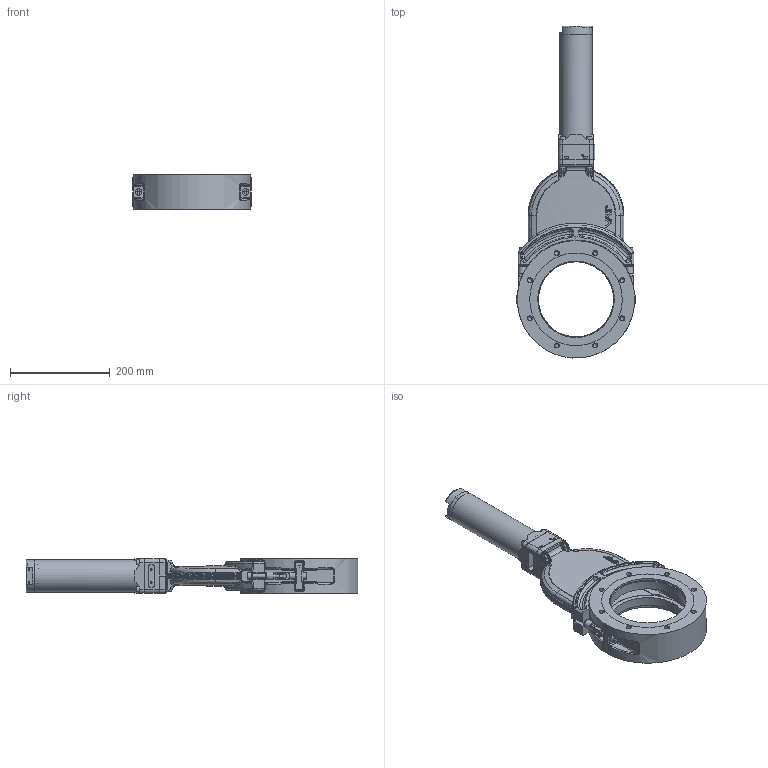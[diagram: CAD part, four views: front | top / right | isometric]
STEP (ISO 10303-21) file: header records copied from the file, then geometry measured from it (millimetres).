
FILE_DESCRIPTION((''),'2;1');
FILE_NAME('O:\MT\MT\Systeme\Cad\Datenexporte\www_vat_ch\233607.stp','2005-05-12T08:57:20',('User'),('SDRC'),'I-DEAS Master Series 9','UNIX','Yes');
FILE_SCHEMA(('CONFIG_CONTROL_DESIGN'));
Length unit declared in the file: millimetre
Assembly tree (28 placements, depth 0):
Bounding box: 237 x 664.09 x 70 mm (x, y, z)
Volume: 2348620.5 mm3; surface area: 516440.8 mm2
Topology: 52 solids, 53 shells, 1721 faces, 3932 edges, 2351 vertices
Faces by surface type: bspline 1721
Entity records: 58684 total; most frequent: CARTESIAN_POINT 35970, ORIENTED_EDGE 6874, EDGE_CURVE 3437, VERTEX_POINT 2085, B_SPLINE_CURVE_WITH_KNOTS 1712, EDGE_LOOP 1693, FACE_OUTER_BOUND 1511, ADVANCED_FACE 1511
